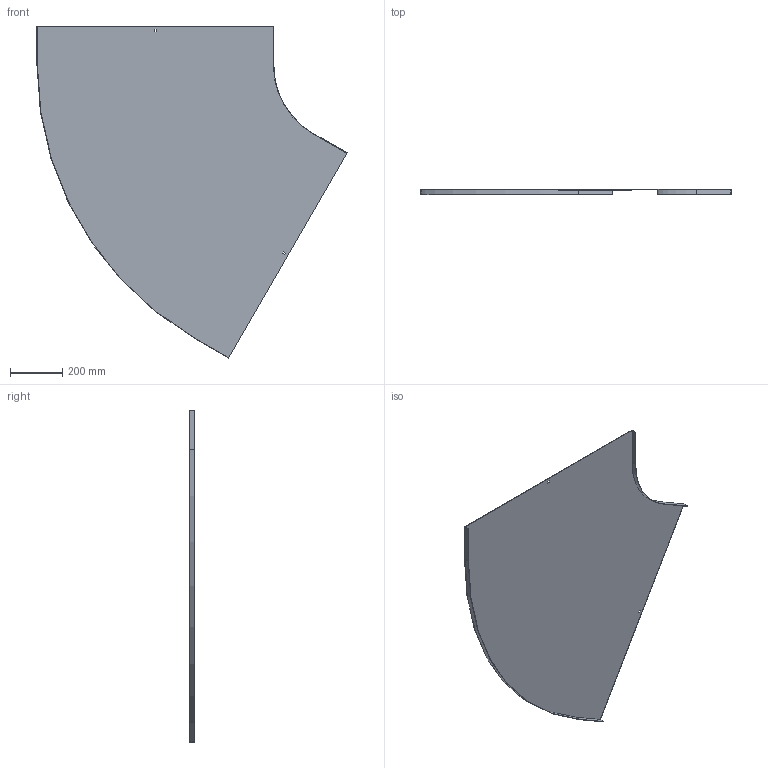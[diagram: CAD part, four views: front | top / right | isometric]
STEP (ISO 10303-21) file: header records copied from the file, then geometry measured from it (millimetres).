
FILE_DESCRIPTION (( 'STEP AP214' ), '1' );
FILE_NAME ('A2_13N3R900.step', '2025-02-21T10:52:31', ( '' ), ( '' ), 'SwSTEP 2.0', 'SolidWorks 2023', '' );
FILE_SCHEMA (( 'AUTOMOTIVE_DESIGN' ));
Length unit declared in the file: millimetre
Products named in the file (1): A2_13N3R900
Bounding box: 1182.15 x 20 x 1265.53 mm (x, y, z)
Volume: 1530235.9 mm3; surface area: 2046483.7 mm2
Topology: 1 solids, 1 shells, 26 faces, 72 edges, 48 vertices
Faces by surface type: plane 22, cylinder 4
Entity records: 855 total; most frequent: CARTESIAN_POINT 147, ORIENTED_EDGE 144, DIRECTION 134, EDGE_CURVE 72, LINE 64, VECTOR 64, VERTEX_POINT 48, AXIS2_PLACEMENT_3D 35
